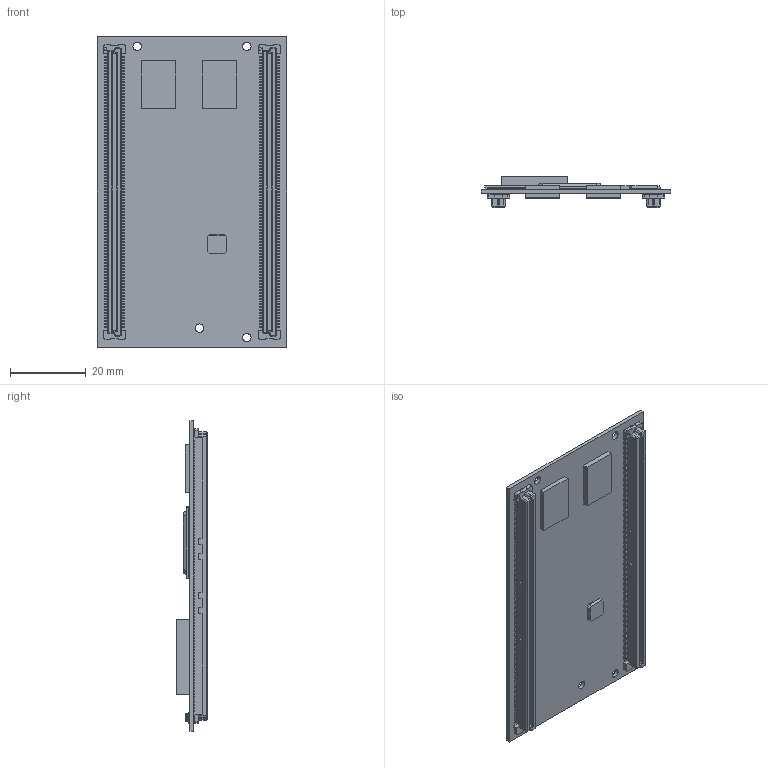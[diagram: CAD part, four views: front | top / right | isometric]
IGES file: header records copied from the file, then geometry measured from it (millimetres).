
Start section:  PTC IGES file: 55001604_pcba_wi-imx53.igs
Global section: file name: 55001604_pcba_wi-imx53.igs; native system: Creo Elements/Pro by Parametric Technology Corporation; preprocessor: 2011310; author: mlarsen; organization: Unknown; date: 20120305.163806; units: inch
Bounding box: 50.01 x 8.34 x 81.99 mm (x, y, z)
Volume: 8367.9 mm3; surface area: 12985.8 mm2
Topology: 2 solids, 2 shells, 2394 faces, 8075 edges, 5350 vertices
Faces by surface type: bspline 2243, revolution 151
